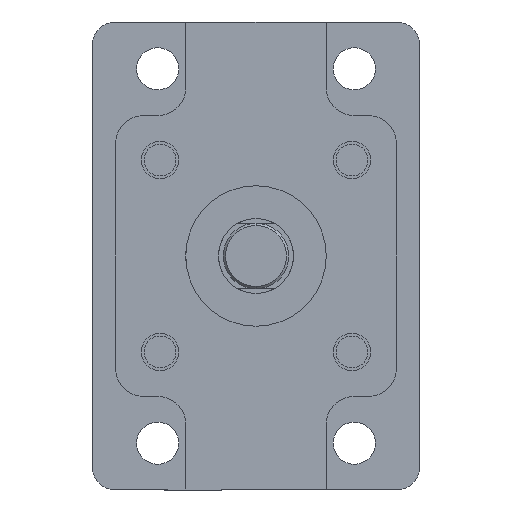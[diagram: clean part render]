
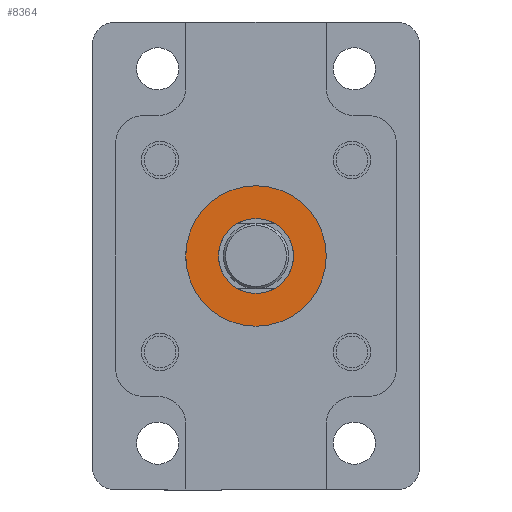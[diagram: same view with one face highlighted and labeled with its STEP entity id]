
A CAD part, left-side view. The second image highlights one B-rep face of the part: STEP entity #8364.
In plain terms, the highlighted planar face has unit normal (-1, 0, 0) as drawn and (1, 0, 0) by its records, which use the part's own axes.
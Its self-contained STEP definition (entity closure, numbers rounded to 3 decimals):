
#197 = CIRCLE ( 'NONE', #6624, 8. ) ;
#326 = CARTESIAN_POINT ( 'NONE',  ( 24.5, 0., -8. ) ) ;
#446 = CIRCLE ( 'NONE', #4271, 15. ) ;
#551 = FACE_OUTER_BOUND ( 'NONE', #9851, .T. ) ;
#1216 = AXIS2_PLACEMENT_3D ( 'NONE', #3581, #6993, #6793 ) ;
#1346 = DIRECTION ( 'NONE',  ( -1., 0., 0. ) ) ;
#1486 = ORIENTED_EDGE ( 'NONE', *, *, #6181, .T. ) ;
#1642 = ORIENTED_EDGE ( 'NONE', *, *, #6778, .F. ) ;
#1842 = ORIENTED_EDGE ( 'NONE', *, *, #9384, .T. ) ;
#1920 = CIRCLE ( 'NONE', #1216, 15. ) ;
#1936 = DIRECTION ( 'NONE',  ( 0., 0., 1. ) ) ;
#2086 = VERTEX_POINT ( 'NONE', #326 ) ;
#2586 = CARTESIAN_POINT ( 'NONE',  ( 24.5, 0., 0. ) ) ;
#3581 = CARTESIAN_POINT ( 'NONE',  ( 24.5, 0., 0. ) ) ;
#3669 = VERTEX_POINT ( 'NONE', #6268 ) ;
#4271 = AXIS2_PLACEMENT_3D ( 'NONE', #9721, #5090, #8114 ) ;
#4551 = PLANE ( 'NONE',  #9957 ) ;
#4664 = VERTEX_POINT ( 'NONE', #6112 ) ;
#5090 = DIRECTION ( 'NONE',  ( -1., 0., 0. ) ) ;
#5236 = EDGE_CURVE ( 'NONE', #4664, #3669, #1920, .T. ) ;
#5814 = ORIENTED_EDGE ( 'NONE', *, *, #5236, .F. ) ;
#5987 = DIRECTION ( 'NONE',  ( 0., 0., 1. ) ) ;
#6112 = CARTESIAN_POINT ( 'NONE',  ( 24.5, 0., 15. ) ) ;
#6181 = EDGE_CURVE ( 'NONE', #2086, #9657, #197, .T. ) ;
#6268 = CARTESIAN_POINT ( 'NONE',  ( 24.5, 0., -15. ) ) ;
#6624 = AXIS2_PLACEMENT_3D ( 'NONE', #12369, #1346, #1936 ) ;
#6778 = EDGE_CURVE ( 'NONE', #3669, #4664, #446, .T. ) ;
#6793 = DIRECTION ( 'NONE',  ( 0., 0., 1. ) ) ;
#6908 = EDGE_LOOP ( 'NONE', ( #1842, #1486 ) ) ;
#6993 = DIRECTION ( 'NONE',  ( -1., 0., 0. ) ) ;
#7186 = DIRECTION ( 'NONE',  ( -1., 0., 0. ) ) ;
#7787 = AXIS2_PLACEMENT_3D ( 'NONE', #2586, #11026, #5987 ) ;
#8114 = DIRECTION ( 'NONE',  ( 0., 0., 1. ) ) ;
#8360 = CARTESIAN_POINT ( 'NONE',  ( 24.5, 0., 8. ) ) ;
#8364 = ADVANCED_FACE ( 'NONE', ( #551, #11187 ), #4551, .F. ) ;
#8592 = CARTESIAN_POINT ( 'NONE',  ( 24.5, 8., 0. ) ) ;
#8995 = DIRECTION ( 'NONE',  ( 0., 0., 1. ) ) ;
#9384 = EDGE_CURVE ( 'NONE', #9657, #2086, #9622, .T. ) ;
#9622 = CIRCLE ( 'NONE', #7787, 8. ) ;
#9657 = VERTEX_POINT ( 'NONE', #8360 ) ;
#9721 = CARTESIAN_POINT ( 'NONE',  ( 24.5, 0., 0. ) ) ;
#9851 = EDGE_LOOP ( 'NONE', ( #5814, #1642 ) ) ;
#9957 = AXIS2_PLACEMENT_3D ( 'NONE', #8592, #7186, #8995 ) ;
#11026 = DIRECTION ( 'NONE',  ( -1., 0., 0. ) ) ;
#11187 = FACE_BOUND ( 'NONE', #6908, .T. ) ;
#12369 = CARTESIAN_POINT ( 'NONE',  ( 24.5, 0., 0. ) ) ;
